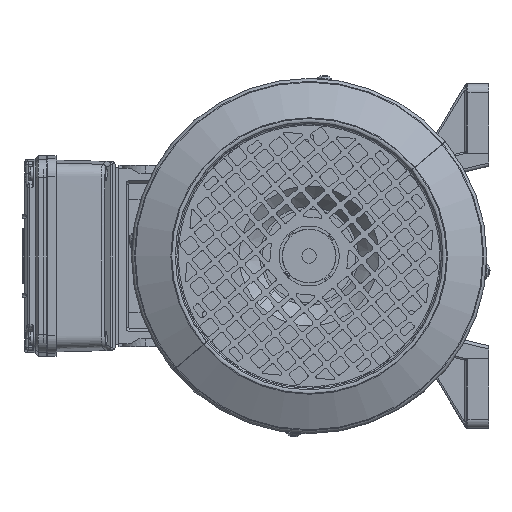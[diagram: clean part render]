
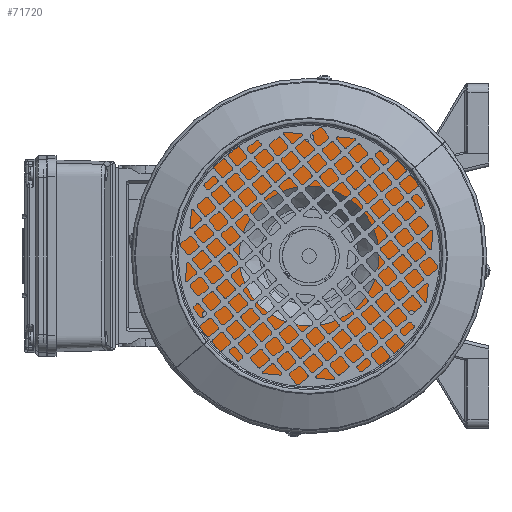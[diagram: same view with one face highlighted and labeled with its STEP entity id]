
A CAD part, left-side view. The second image highlights one B-rep face of the part: STEP entity #71720.
In plain terms, the highlighted planar face has unit normal (-1, 0, 0) as drawn and (0, 1, 0) by its records, which use the part's own axes.
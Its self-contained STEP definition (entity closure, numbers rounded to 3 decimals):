
#641 = CIRCLE ( 'NONE', #113894, 39. ) ;
#1287 = AXIS2_PLACEMENT_3D ( 'NONE', #69658, #12653, #79224 ) ;
#1312 = CIRCLE ( 'NONE', #34737, 2.5 ) ;
#1793 = DIRECTION ( 'NONE',  ( 0., 0., 1. ) ) ;
#2349 = DIRECTION ( 'NONE',  ( 0., 1., 0. ) ) ;
#4653 = DIRECTION ( 'NONE',  ( 0., 0., 1. ) ) ;
#4836 = CARTESIAN_POINT ( 'NONE',  ( 0., 44., 77.5 ) ) ;
#5786 = FACE_BOUND ( 'NONE', #21510, .T. ) ;
#6416 = ORIENTED_EDGE ( 'NONE', *, *, #31091, .F. ) ;
#6693 = DIRECTION ( 'NONE',  ( 0., 1., 0. ) ) ;
#7118 = DIRECTION ( 'NONE',  ( 0., 0., 1. ) ) ;
#12653 = DIRECTION ( 'NONE',  ( 0., 1., 0. ) ) ;
#14073 = AXIS2_PLACEMENT_3D ( 'NONE', #121014, #64103, #7118 ) ;
#14284 = CIRCLE ( 'NONE', #41349, 2.5 ) ;
#14574 = ORIENTED_EDGE ( 'NONE', *, *, #68146, .F. ) ;
#17154 = VERTEX_POINT ( 'NONE', #92660 ) ;
#17663 = AXIS2_PLACEMENT_3D ( 'NONE', #118542, #61612, #4653 ) ;
#19357 = EDGE_LOOP ( 'NONE', ( #6416, #64108 ) ) ;
#21430 = EDGE_LOOP ( 'NONE', ( #98857, #26459 ) ) ;
#21510 = EDGE_LOOP ( 'NONE', ( #76588, #14574 ) ) ;
#22636 = ORIENTED_EDGE ( 'NONE', *, *, #52230, .F. ) ;
#24787 = CARTESIAN_POINT ( 'NONE',  ( -17.082, 44., 66.251 ) ) ;
#24798 = VERTEX_POINT ( 'NONE', #92177 ) ;
#26459 = ORIENTED_EDGE ( 'NONE', *, *, #62014, .T. ) ;
#28036 = FACE_BOUND ( 'NONE', #79451, .T. ) ;
#30066 = AXIS2_PLACEMENT_3D ( 'NONE', #105016, #48008, #114552 ) ;
#30474 = EDGE_CURVE ( 'NONE', #17154, #24798, #1312, .T. ) ;
#31091 = EDGE_CURVE ( 'NONE', #46614, #31223, #45785, .T. ) ;
#31177 = CARTESIAN_POINT ( 'NONE',  ( 0., 44., 0. ) ) ;
#31223 = VERTEX_POINT ( 'NONE', #41961 ) ;
#32494 = VERTEX_POINT ( 'NONE', #95115 ) ;
#32510 = DIRECTION ( 'NONE',  ( 0., 1., 0. ) ) ;
#33827 = CARTESIAN_POINT ( 'NONE',  ( 0., 44., 39. ) ) ;
#34737 = AXIS2_PLACEMENT_3D ( 'NONE', #96230, #39233, #105804 ) ;
#37941 = CARTESIAN_POINT ( 'NONE',  ( -17.082, 44., 61.251 ) ) ;
#38857 = EDGE_CURVE ( 'NONE', #114123, #44629, #109295, .T. ) ;
#39233 = DIRECTION ( 'NONE',  ( 0., 1., 0. ) ) ;
#40707 = DIRECTION ( 'NONE',  ( 0., 0., 1. ) ) ;
#41349 = AXIS2_PLACEMENT_3D ( 'NONE', #89506, #32510, #99086 ) ;
#41961 = CARTESIAN_POINT ( 'NONE',  ( 0., 44., -39. ) ) ;
#43992 = EDGE_CURVE ( 'NONE', #70334, #95691, #57575, .T. ) ;
#44629 = VERTEX_POINT ( 'NONE', #55561 ) ;
#45785 = CIRCLE ( 'NONE', #61927, 39. ) ;
#46234 = CARTESIAN_POINT ( 'NONE',  ( 39., 44., 0. ) ) ;
#46614 = VERTEX_POINT ( 'NONE', #33827 ) ;
#48008 = DIRECTION ( 'NONE',  ( 0., 1., 0. ) ) ;
#49088 = EDGE_CURVE ( 'NONE', #24798, #17154, #105784, .T. ) ;
#49263 = CARTESIAN_POINT ( 'NONE',  ( -46.669, 44., -49.169 ) ) ;
#50368 = FACE_BOUND ( 'NONE', #55797, .T. ) ;
#52230 = EDGE_CURVE ( 'NONE', #44629, #114123, #14284, .T. ) ;
#55431 = PLANE ( 'NONE',  #113103 ) ;
#55561 = CARTESIAN_POINT ( 'NONE',  ( -46.669, 44., -44.169 ) ) ;
#55797 = EDGE_LOOP ( 'NONE', ( #102806, #75841 ) ) ;
#55840 = DIRECTION ( 'NONE',  ( 0., 0., -1. ) ) ;
#57575 = CIRCLE ( 'NONE', #17663, 2.5 ) ;
#58765 = DIRECTION ( 'NONE',  ( 0., 1., 0. ) ) ;
#59319 = CARTESIAN_POINT ( 'NONE',  ( 0., 44., 0. ) ) ;
#60218 = EDGE_CURVE ( 'NONE', #76106, #32494, #83165, .T. ) ;
#61612 = DIRECTION ( 'NONE',  ( 0., 1., 0. ) ) ;
#61927 = AXIS2_PLACEMENT_3D ( 'NONE', #31177, #97734, #40707 ) ;
#62014 = EDGE_CURVE ( 'NONE', #32494, #76106, #96953, .T. ) ;
#63664 = CARTESIAN_POINT ( 'NONE',  ( 63.751, 44., -17.082 ) ) ;
#64103 = DIRECTION ( 'NONE',  ( 0., 1., 0. ) ) ;
#64108 = ORIENTED_EDGE ( 'NONE', *, *, #79806, .F. ) ;
#68146 = EDGE_CURVE ( 'NONE', #95691, #70334, #95815, .T. ) ;
#68892 = DIRECTION ( 'NONE',  ( 0., 0., 1. ) ) ;
#69658 = CARTESIAN_POINT ( 'NONE',  ( -46.669, 44., -46.669 ) ) ;
#70334 = VERTEX_POINT ( 'NONE', #24787 ) ;
#70522 = AXIS2_PLACEMENT_3D ( 'NONE', #63664, #6693, #73218 ) ;
#71720 = ADVANCED_FACE ( 'NONE', ( #28036, #5786, #100968, #75705, #50368 ), #55431, .F. ) ;
#73218 = DIRECTION ( 'NONE',  ( 0., 0., 1. ) ) ;
#75705 = FACE_OUTER_BOUND ( 'NONE', #21430, .T. ) ;
#75841 = ORIENTED_EDGE ( 'NONE', *, *, #30474, .F. ) ;
#76106 = VERTEX_POINT ( 'NONE', #4836 ) ;
#76588 = ORIENTED_EDGE ( 'NONE', *, *, #43992, .F. ) ;
#79224 = DIRECTION ( 'NONE',  ( 0., 0., 1. ) ) ;
#79451 = EDGE_LOOP ( 'NONE', ( #22636, #81262 ) ) ;
#79806 = EDGE_CURVE ( 'NONE', #31223, #46614, #641, .T. ) ;
#81262 = ORIENTED_EDGE ( 'NONE', *, *, #38857, .F. ) ;
#83165 = CIRCLE ( 'NONE', #30066, 77.5 ) ;
#89506 = CARTESIAN_POINT ( 'NONE',  ( -46.669, 44., -46.669 ) ) ;
#92177 = CARTESIAN_POINT ( 'NONE',  ( 63.751, 44., -14.582 ) ) ;
#92660 = CARTESIAN_POINT ( 'NONE',  ( 63.751, 44., -19.582 ) ) ;
#95115 = CARTESIAN_POINT ( 'NONE',  ( 0., 44., -77.5 ) ) ;
#95691 = VERTEX_POINT ( 'NONE', #37941 ) ;
#95815 = CIRCLE ( 'NONE', #14073, 2.5 ) ;
#96230 = CARTESIAN_POINT ( 'NONE',  ( 63.751, 44., -17.082 ) ) ;
#96953 = CIRCLE ( 'NONE', #105121, 77.5 ) ;
#97734 = DIRECTION ( 'NONE',  ( 0., 1., 0. ) ) ;
#98857 = ORIENTED_EDGE ( 'NONE', *, *, #60218, .T. ) ;
#99086 = DIRECTION ( 'NONE',  ( 0., 0., 1. ) ) ;
#100968 = FACE_BOUND ( 'NONE', #19357, .T. ) ;
#102806 = ORIENTED_EDGE ( 'NONE', *, *, #49088, .F. ) ;
#105016 = CARTESIAN_POINT ( 'NONE',  ( 0., 44., 0. ) ) ;
#105121 = AXIS2_PLACEMENT_3D ( 'NONE', #59319, #2349, #68892 ) ;
#105784 = CIRCLE ( 'NONE', #70522, 2.5 ) ;
#105804 = DIRECTION ( 'NONE',  ( 0., 0., 1. ) ) ;
#109295 = CIRCLE ( 'NONE', #1287, 2.5 ) ;
#112761 = DIRECTION ( 'NONE',  ( 0., -1., 0. ) ) ;
#113103 = AXIS2_PLACEMENT_3D ( 'NONE', #46234, #112761, #55840 ) ;
#113894 = AXIS2_PLACEMENT_3D ( 'NONE', #115699, #58765, #1793 ) ;
#114123 = VERTEX_POINT ( 'NONE', #49263 ) ;
#114552 = DIRECTION ( 'NONE',  ( 0., 0., 1. ) ) ;
#115699 = CARTESIAN_POINT ( 'NONE',  ( 0., 44., 0. ) ) ;
#118542 = CARTESIAN_POINT ( 'NONE',  ( -17.082, 44., 63.751 ) ) ;
#121014 = CARTESIAN_POINT ( 'NONE',  ( -17.082, 44., 63.751 ) ) ;
